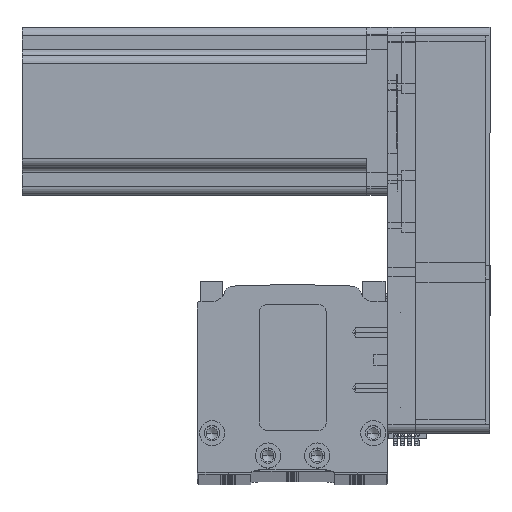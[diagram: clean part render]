
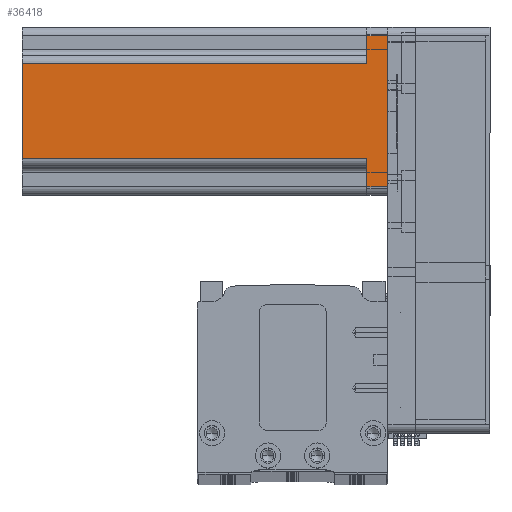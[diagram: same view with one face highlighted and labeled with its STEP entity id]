
A CAD part, top view. The second image highlights one B-rep face of the part: STEP entity #36418.
In plain terms, the highlighted planar face has unit normal (0, 0, 1) as drawn and (0, -1, 0) by its records, which use the part's own axes.
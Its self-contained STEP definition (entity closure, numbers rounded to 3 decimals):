
#883 = VERTEX_POINT ( 'NONE', #1372 ) ;
#934 = EDGE_CURVE ( 'NONE', #63873, #45285, #18885, .T. ) ;
#1372 = CARTESIAN_POINT ( 'NONE',  ( 27., -30., 7.5 ) ) ;
#1498 = DIRECTION ( 'NONE',  ( 0., 0., 1. ) ) ;
#2096 = CARTESIAN_POINT ( 'NONE',  ( 20., -30., 7.5 ) ) ;
#4759 = VECTOR ( 'NONE', #17529, 1000. ) ;
#5559 = VERTEX_POINT ( 'NONE', #61787 ) ;
#6145 = CARTESIAN_POINT ( 'NONE',  ( -17., -30., 130.7 ) ) ;
#8604 = CARTESIAN_POINT ( 'NONE',  ( 30., -30., 130.7 ) ) ;
#10561 = ORIENTED_EDGE ( 'NONE', *, *, #25291, .T. ) ;
#10655 = CARTESIAN_POINT ( 'NONE',  ( -17., -30., 130.7 ) ) ;
#10669 = VERTEX_POINT ( 'NONE', #28989 ) ;
#12450 = LINE ( 'NONE', #52126, #40836 ) ;
#14272 = DIRECTION ( 'NONE',  ( -1., 0., 0. ) ) ;
#15378 = LINE ( 'NONE', #27868, #71799 ) ;
#17529 = DIRECTION ( 'NONE',  ( 0., 0., -1. ) ) ;
#18193 = VECTOR ( 'NONE', #72436, 1000. ) ;
#18562 = ORIENTED_EDGE ( 'NONE', *, *, #48620, .F. ) ;
#18885 = LINE ( 'NONE', #57427, #48864 ) ;
#19755 = PLANE ( 'NONE',  #26873 ) ;
#19791 = LINE ( 'NONE', #6145, #4759 ) ;
#20462 = ORIENTED_EDGE ( 'NONE', *, *, #44077, .T. ) ;
#21059 = VECTOR ( 'NONE', #66296, 1000. ) ;
#22705 = EDGE_CURVE ( 'NONE', #10669, #45285, #12450, .T. ) ;
#24255 = VECTOR ( 'NONE', #58284, 1000. ) ;
#25291 = EDGE_CURVE ( 'NONE', #32591, #70360, #15378, .T. ) ;
#25981 = FACE_OUTER_BOUND ( 'NONE', #31586, .T. ) ;
#26873 = AXIS2_PLACEMENT_3D ( 'NONE', #8604, #48095, #14272 ) ;
#27019 = CARTESIAN_POINT ( 'NONE',  ( 27., -30., 0. ) ) ;
#27868 = CARTESIAN_POINT ( 'NONE',  ( -27., -30., 130.7 ) ) ;
#28341 = ORIENTED_EDGE ( 'NONE', *, *, #22705, .T. ) ;
#28989 = CARTESIAN_POINT ( 'NONE',  ( 17., -30., 7.5 ) ) ;
#29680 = CARTESIAN_POINT ( 'NONE',  ( 27., -30., 130.7 ) ) ;
#29856 = CARTESIAN_POINT ( 'NONE',  ( -27., -30., 0. ) ) ;
#31586 = EDGE_LOOP ( 'NONE', ( #39414, #72316, #18562, #10561, #34917, #20462, #44031, #28341 ) ) ;
#32591 = VERTEX_POINT ( 'NONE', #33449 ) ;
#33449 = CARTESIAN_POINT ( 'NONE',  ( -27., -30., 7.5 ) ) ;
#34917 = ORIENTED_EDGE ( 'NONE', *, *, #72196, .T. ) ;
#34997 = LINE ( 'NONE', #55576, #18193 ) ;
#35824 = EDGE_CURVE ( 'NONE', #883, #10669, #69176, .T. ) ;
#36418 = ADVANCED_FACE ( 'NONE', ( #25981 ), #19755, .F. ) ;
#39414 = ORIENTED_EDGE ( 'NONE', *, *, #934, .F. ) ;
#40836 = VECTOR ( 'NONE', #57819, 1000. ) ;
#41642 = VECTOR ( 'NONE', #1498, 1000. ) ;
#44031 = ORIENTED_EDGE ( 'NONE', *, *, #35824, .T. ) ;
#44077 = EDGE_CURVE ( 'NONE', #61894, #883, #71477, .T. ) ;
#45285 = VERTEX_POINT ( 'NONE', #48980 ) ;
#48095 = DIRECTION ( 'NONE',  ( 0., 1., 0. ) ) ;
#48620 = EDGE_CURVE ( 'NONE', #32591, #5559, #66016, .T. ) ;
#48864 = VECTOR ( 'NONE', #56879, 1000. ) ;
#48980 = CARTESIAN_POINT ( 'NONE',  ( 17., -30., 130.7 ) ) ;
#52126 = CARTESIAN_POINT ( 'NONE',  ( 17., -30., 130.7 ) ) ;
#55576 = CARTESIAN_POINT ( 'NONE',  ( 30., -30., 0. ) ) ;
#56879 = DIRECTION ( 'NONE',  ( 1., 0., 0. ) ) ;
#57427 = CARTESIAN_POINT ( 'NONE',  ( 30., -30., 130.7 ) ) ;
#57819 = DIRECTION ( 'NONE',  ( 0., 0., 1. ) ) ;
#58284 = DIRECTION ( 'NONE',  ( -1., 0., 0. ) ) ;
#61787 = CARTESIAN_POINT ( 'NONE',  ( -17., -30., 7.5 ) ) ;
#61894 = VERTEX_POINT ( 'NONE', #27019 ) ;
#63873 = VERTEX_POINT ( 'NONE', #10655 ) ;
#66016 = LINE ( 'NONE', #66040, #21059 ) ;
#66040 = CARTESIAN_POINT ( 'NONE',  ( -20., -30., 7.5 ) ) ;
#66296 = DIRECTION ( 'NONE',  ( 1., 0., 0. ) ) ;
#69176 = LINE ( 'NONE', #2096, #24255 ) ;
#69241 = EDGE_CURVE ( 'NONE', #63873, #5559, #19791, .T. ) ;
#70360 = VERTEX_POINT ( 'NONE', #29856 ) ;
#71477 = LINE ( 'NONE', #29680, #41642 ) ;
#71799 = VECTOR ( 'NONE', #72806, 1000. ) ;
#72196 = EDGE_CURVE ( 'NONE', #70360, #61894, #34997, .T. ) ;
#72316 = ORIENTED_EDGE ( 'NONE', *, *, #69241, .T. ) ;
#72436 = DIRECTION ( 'NONE',  ( 1., 0., 0. ) ) ;
#72806 = DIRECTION ( 'NONE',  ( 0., 0., -1. ) ) ;
